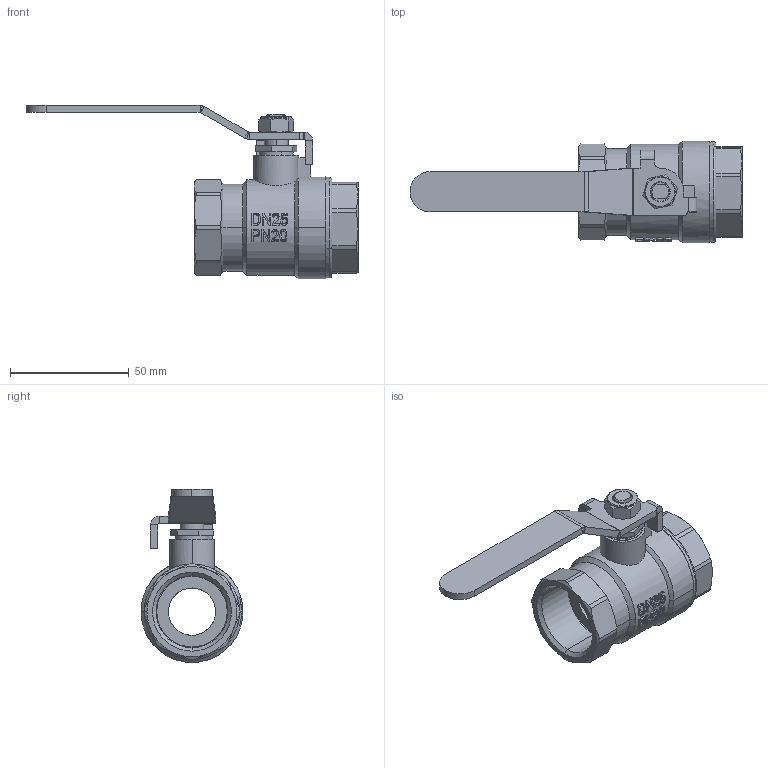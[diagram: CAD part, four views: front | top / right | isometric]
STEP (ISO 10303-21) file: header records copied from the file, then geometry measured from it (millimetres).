
FILE_DESCRIPTION(/* description */ (''),/* implementation_level */ '2;1');
FILE_NAME(/* name */ '2073.stp',/* time_stamp */ '2022-05-12T16:26:37+08:00',/* author */ (''),/* organization */ (''),/* preprocessor_version */ 'ST-DEVELOPER v11',/* originating_system */ 'SIEMENS PLM Software NX 7.5',/* authorisation */ '');
FILE_SCHEMA (('CONFIG_CONTROL_DESIGN'));
Length unit declared in the file: millimetre
Products named in the file (1): 2073
Bounding box: 140.03 x 43 x 73.07 mm (x, y, z)
Volume: 44119.7 mm3; surface area: 31938.9 mm2
Topology: 6 solids, 6 shells, 402 faces, 989 edges, 622 vertices
Faces by surface type: plane 157, cylinder 98, cone 66, bspline 65, torus 14, sphere 2
Full cylindrical faces by diameter (mm): 40.2 x1
Entity records: 33273 total; most frequent: CARTESIAN_POINT 24113, ORIENTED_EDGE 1988, DIRECTION 1717, EDGE_CURVE 994, AXIS2_PLACEMENT_3D 664, VERTEX_POINT 630, EDGE_LOOP 440, ADVANCED_FACE 402
